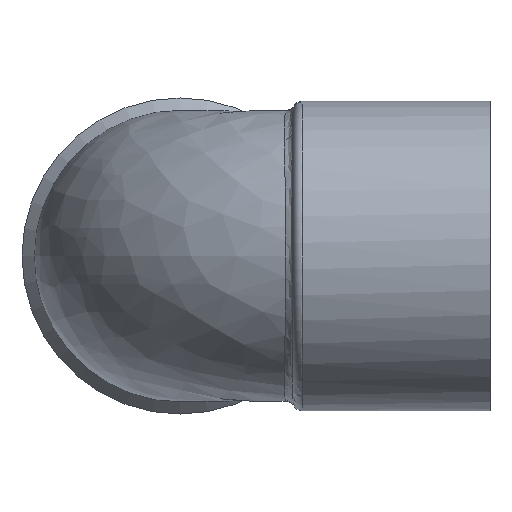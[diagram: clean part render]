
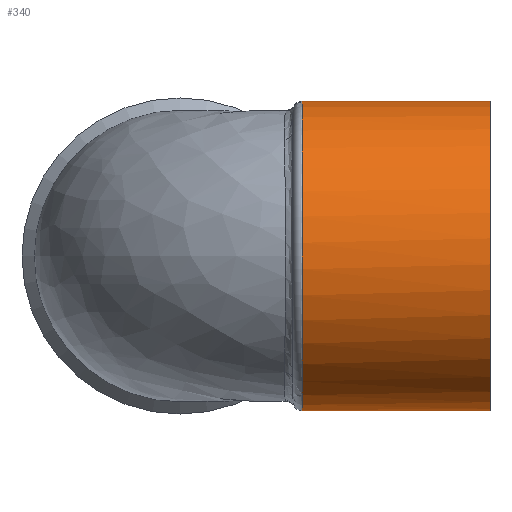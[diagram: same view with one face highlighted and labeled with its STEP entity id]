
A CAD part, front view. The second image highlights one B-rep face of the part: STEP entity #340.
In plain terms, the highlighted cylindrical face has radius 16.5 mm (diameter 33 mm), a full revolution.
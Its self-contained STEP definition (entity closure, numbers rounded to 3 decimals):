
#22=CYLINDRICAL_SURFACE('',#373,16.5);
#38=FACE_BOUND('',#113,.T.);
#68=B_SPLINE_CURVE_WITH_KNOTS('',3,(#1398,#1399,#1400,#1401,#1402,#1403,
#1404,#1405,#1406,#1407,#1408,#1409,#1410),.UNSPECIFIED.,.F.,.F.,(4,1,1,
1,1,1,2,2,4),(-1.813,-1.555,-1.297,-1.039,
-0.781,-0.523,-0.008,0.,0.007),
 .UNSPECIFIED.);
#69=B_SPLINE_CURVE_WITH_KNOTS('',3,(#1414,#1415,#1416,#1417,#1418,#1419,
#1420,#1421,#1422,#1423,#1424,#1425),.UNSPECIFIED.,.F.,.F.,(4,2,2,1,1,1,
1,4),(-12.062,-12.055,-12.047,-11.531,
-11.273,-11.015,-10.5,-10.242),
 .UNSPECIFIED.);
#85=FACE_OUTER_BOUND('',#112,.T.);
#112=EDGE_LOOP('',(#295));
#113=EDGE_LOOP('',(#296,#297,#298,#299,#300));
#141=CIRCLE('',#366,16.5);
#144=CIRCLE('',#370,16.5);
#145=CIRCLE('',#372,16.5);
#146=CIRCLE('',#374,16.5);
#156=VERTEX_POINT('',#774);
#168=VERTEX_POINT('',#956);
#173=VERTEX_POINT('',#1313);
#175=VERTEX_POINT('',#1336);
#176=VERTEX_POINT('',#1338);
#177=VERTEX_POINT('',#1412);
#216=EDGE_CURVE('',#175,#176,#141,.T.);
#219=EDGE_CURVE('',#176,#168,#144,.T.);
#220=EDGE_CURVE('',#156,#175,#145,.T.);
#221=EDGE_CURVE('',#168,#173,#68,.T.);
#222=EDGE_CURVE('',#177,#177,#146,.T.);
#223=EDGE_CURVE('',#173,#156,#69,.T.);
#295=ORIENTED_EDGE('',*,*,#222,.T.);
#296=ORIENTED_EDGE('',*,*,#219,.F.);
#297=ORIENTED_EDGE('',*,*,#216,.F.);
#298=ORIENTED_EDGE('',*,*,#220,.F.);
#299=ORIENTED_EDGE('',*,*,#223,.F.);
#300=ORIENTED_EDGE('',*,*,#221,.F.);
#340=ADVANCED_FACE('',(#85,#38),#22,.T.);
#366=AXIS2_PLACEMENT_3D('',#1339,#418,#419);
#370=AXIS2_PLACEMENT_3D('',#1343,#426,#427);
#372=AXIS2_PLACEMENT_3D('',#1345,#430,#431);
#373=AXIS2_PLACEMENT_3D('',#1411,#432,#433);
#374=AXIS2_PLACEMENT_3D('',#1413,#434,#435);
#418=DIRECTION('center_axis',(-1.,0.,0.));
#419=DIRECTION('ref_axis',(0.,-1.,0.));
#426=DIRECTION('center_axis',(-1.,0.,0.));
#427=DIRECTION('ref_axis',(0.,0.48,0.877));
#430=DIRECTION('center_axis',(-1.,0.,0.));
#431=DIRECTION('ref_axis',(0.,0.48,-0.877));
#432=DIRECTION('center_axis',(-1.,0.,0.));
#433=DIRECTION('ref_axis',(0.,0.,1.));
#434=DIRECTION('center_axis',(-1.,0.,0.));
#435=DIRECTION('ref_axis',(0.,0.,1.));
#774=CARTESIAN_POINT('',(13.,7.916,-13.884));
#956=CARTESIAN_POINT('',(13.,7.916,13.884));
#1313=CARTESIAN_POINT('',(17.5,15.5,0.));
#1336=CARTESIAN_POINT('',(13.,-0.028,-16.471));
#1338=CARTESIAN_POINT('',(13.,-0.028,16.471));
#1339=CARTESIAN_POINT('Origin',(13.,-1.,0.));
#1343=CARTESIAN_POINT('Origin',(13.,-1.,0.));
#1345=CARTESIAN_POINT('Origin',(13.,-1.,0.));
#1398=CARTESIAN_POINT('Ctrl Pts',(13.,7.916,13.884));
#1399=CARTESIAN_POINT('Ctrl Pts',(13.502,8.478,13.523));
#1400=CARTESIAN_POINT('Ctrl Pts',(14.361,9.627,12.687));
#1401=CARTESIAN_POINT('Ctrl Pts',(15.347,11.267,11.116));
#1402=CARTESIAN_POINT('Ctrl Pts',(16.105,12.726,9.259));
#1403=CARTESIAN_POINT('Ctrl Pts',(16.666,13.913,7.195));
#1404=CARTESIAN_POINT('Ctrl Pts',(17.21,15.105,4.184));
#1405=CARTESIAN_POINT('Ctrl Pts',(17.39,15.486,1.757));
#1406=CARTESIAN_POINT('Ctrl Pts',(17.493,15.5,0.115));
#1407=CARTESIAN_POINT('Ctrl Pts',(17.494,15.5,0.091));
#1408=CARTESIAN_POINT('Ctrl Pts',(17.497,15.5,0.045));
#1409=CARTESIAN_POINT('Ctrl Pts',(17.499,15.5,0.022));
#1410=CARTESIAN_POINT('Ctrl Pts',(17.5,15.5,0.));
#1411=CARTESIAN_POINT('Origin',(33.,-1.,0.));
#1412=CARTESIAN_POINT('',(33.,-1.,-16.5));
#1413=CARTESIAN_POINT('Origin',(33.,-1.,0.));
#1414=CARTESIAN_POINT('Ctrl Pts',(17.5,15.5,0.));
#1415=CARTESIAN_POINT('Ctrl Pts',(17.499,15.5,-0.022));
#1416=CARTESIAN_POINT('Ctrl Pts',(17.497,15.5,-0.045));
#1417=CARTESIAN_POINT('Ctrl Pts',(17.494,15.5,-0.091));
#1418=CARTESIAN_POINT('Ctrl Pts',(17.493,15.5,-0.115));
#1419=CARTESIAN_POINT('Ctrl Pts',(17.39,15.486,-1.757));
#1420=CARTESIAN_POINT('Ctrl Pts',(17.21,15.105,-4.186));
#1421=CARTESIAN_POINT('Ctrl Pts',(16.667,13.913,-7.194));
#1422=CARTESIAN_POINT('Ctrl Pts',(15.914,12.33,-9.952));
#1423=CARTESIAN_POINT('Ctrl Pts',(14.788,10.202,-12.272));
#1424=CARTESIAN_POINT('Ctrl Pts',(13.502,8.478,-13.523));
#1425=CARTESIAN_POINT('Ctrl Pts',(13.,7.916,-13.884));
